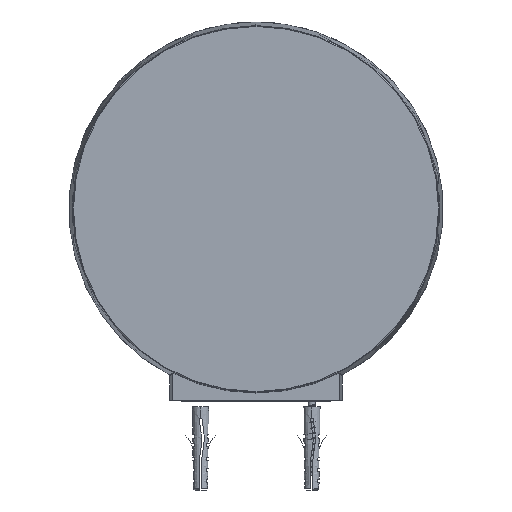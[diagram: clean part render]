
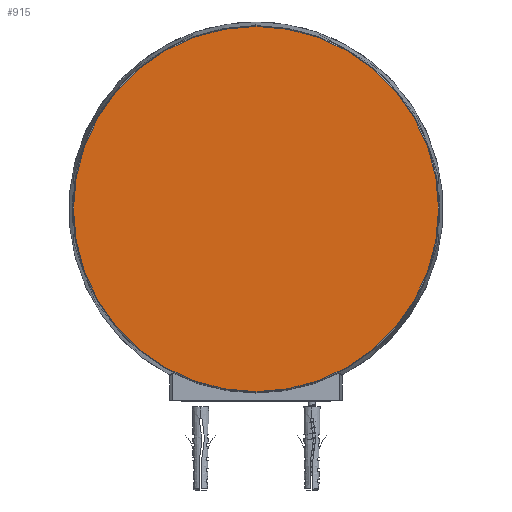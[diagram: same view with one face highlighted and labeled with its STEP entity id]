
A CAD part, front view. The second image highlights one B-rep face of the part: STEP entity #915.
In plain terms, the highlighted planar face has unit normal (0, -1, 0).
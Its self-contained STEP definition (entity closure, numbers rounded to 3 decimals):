
#1=CARTESIAN_POINT('',(0.,0.,0.));
#2=DIRECTION('',(0.,-1.,0.));
#3=DIRECTION('',(0.,0.,-1.));
#4=AXIS2_PLACEMENT_3D('',#1,#2,#3);
#6=CARTESIAN_POINT('',(0.,0.,0.));
#7=DIRECTION('',(0.,-1.,0.));
#8=DIRECTION('',(0.,0.,1.));
#9=AXIS2_PLACEMENT_3D('',#6,#7,#8);
#813=CARTESIAN_POINT('',(0.,0.,-65.903));
#814=CARTESIAN_POINT('',(0.,0.,65.903));
#815=VERTEX_POINT('',#813);
#816=VERTEX_POINT('',#814);
#904=CARTESIAN_POINT('',(0.,0.,0.));
#905=DIRECTION('',(0.,1.,0.));
#906=DIRECTION('',(0.,0.,-1.));
#907=AXIS2_PLACEMENT_3D('',#904,#905,#906);
#908=PLANE('',#907);
#910=ORIENTED_EDGE('',*,*,#909,.F.);
#912=ORIENTED_EDGE('',*,*,#911,.F.);
#913=EDGE_LOOP('',(#910,#912));
#914=FACE_OUTER_BOUND('',#913,.F.);
#915=ADVANCED_FACE('',(#914),#908,.F.);
#5=CIRCLE('',#4,65.903);
#10=CIRCLE('',#9,65.903);
#909=EDGE_CURVE('',#815,#816,#5,.T.);
#911=EDGE_CURVE('',#816,#815,#10,.T.);
